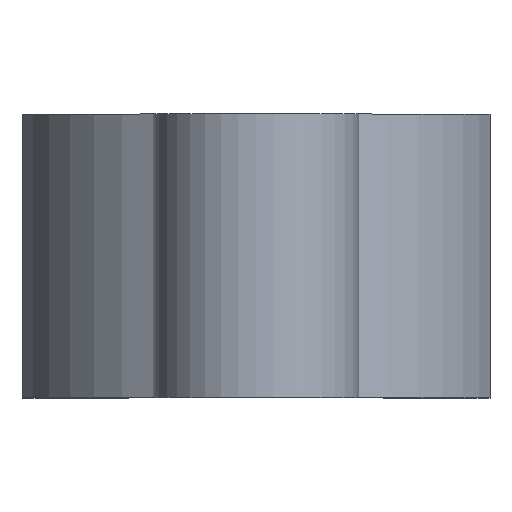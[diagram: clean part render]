
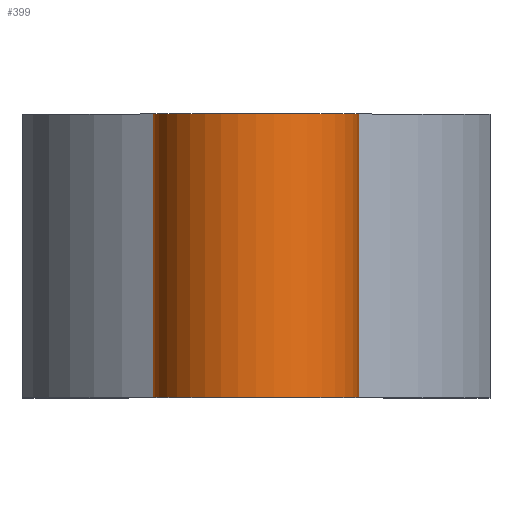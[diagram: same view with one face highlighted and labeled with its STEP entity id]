
A CAD part, top view. The second image highlights one B-rep face of the part: STEP entity #399.
In plain terms, the highlighted cylindrical face has radius 7.25 mm (diameter 14.5 mm), a partial arc.
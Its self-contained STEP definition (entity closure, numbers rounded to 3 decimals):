
#14 = EDGE_LOOP ( 'NONE', ( #440, #360, #290, #412 ) ) ;
#38 = DIRECTION ( 'NONE',  ( 0., -1., 0. ) ) ;
#68 = VERTEX_POINT ( 'NONE', #587 ) ;
#69 = FACE_OUTER_BOUND ( 'NONE', #14, .T. ) ;
#73 = DIRECTION ( 'NONE',  ( 0., -1., 0. ) ) ;
#89 = EDGE_CURVE ( 'NONE', #108, #141, #608, .T. ) ;
#99 = LINE ( 'NONE', #197, #452 ) ;
#108 = VERTEX_POINT ( 'NONE', #585 ) ;
#113 = EDGE_CURVE ( 'NONE', #68, #108, #476, .T. ) ;
#116 = AXIS2_PLACEMENT_3D ( 'NONE', #579, #283, #179 ) ;
#141 = VERTEX_POINT ( 'NONE', #338 ) ;
#170 = CARTESIAN_POINT ( 'NONE',  ( -7.25, 10., 20.75 ) ) ;
#175 = CARTESIAN_POINT ( 'NONE',  ( 0., 10., 20.75 ) ) ;
#179 = DIRECTION ( 'NONE',  ( 0., 0., 1. ) ) ;
#197 = CARTESIAN_POINT ( 'NONE',  ( 7.25, 10., 20.75 ) ) ;
#199 = VECTOR ( 'NONE', #380, 1000. ) ;
#249 = CIRCLE ( 'NONE', #336, 7.25 ) ;
#283 = DIRECTION ( 'NONE',  ( 0., 1., 0. ) ) ;
#290 = ORIENTED_EDGE ( 'NONE', *, *, #337, .F. ) ;
#314 = DIRECTION ( 'NONE',  ( 0., 0., 1. ) ) ;
#333 = AXIS2_PLACEMENT_3D ( 'NONE', #175, #73, #381 ) ;
#336 = AXIS2_PLACEMENT_3D ( 'NONE', #612, #458, #314 ) ;
#337 = EDGE_CURVE ( 'NONE', #68, #554, #249, .T. ) ;
#338 = CARTESIAN_POINT ( 'NONE',  ( 7.25, -10., 20.75 ) ) ;
#360 = ORIENTED_EDGE ( 'NONE', *, *, #512, .F. ) ;
#380 = DIRECTION ( 'NONE',  ( 0., -1., 0. ) ) ;
#381 = DIRECTION ( 'NONE',  ( 0., 0., -1. ) ) ;
#395 = CARTESIAN_POINT ( 'NONE',  ( 7.25, 10., 20.75 ) ) ;
#399 = ADVANCED_FACE ( 'NONE', ( #69 ), #475, .T. ) ;
#412 = ORIENTED_EDGE ( 'NONE', *, *, #113, .T. ) ;
#440 = ORIENTED_EDGE ( 'NONE', *, *, #89, .T. ) ;
#452 = VECTOR ( 'NONE', #38, 1000. ) ;
#458 = DIRECTION ( 'NONE',  ( 0., 1., 0. ) ) ;
#475 = CYLINDRICAL_SURFACE ( 'NONE', #333, 7.25 ) ;
#476 = LINE ( 'NONE', #170, #199 ) ;
#512 = EDGE_CURVE ( 'NONE', #554, #141, #99, .T. ) ;
#554 = VERTEX_POINT ( 'NONE', #395 ) ;
#579 = CARTESIAN_POINT ( 'NONE',  ( 0., -10., 20.75 ) ) ;
#585 = CARTESIAN_POINT ( 'NONE',  ( -7.25, -10., 20.75 ) ) ;
#587 = CARTESIAN_POINT ( 'NONE',  ( -7.25, 10., 20.75 ) ) ;
#608 = CIRCLE ( 'NONE', #116, 7.25 ) ;
#612 = CARTESIAN_POINT ( 'NONE',  ( 0., 10., 20.75 ) ) ;
